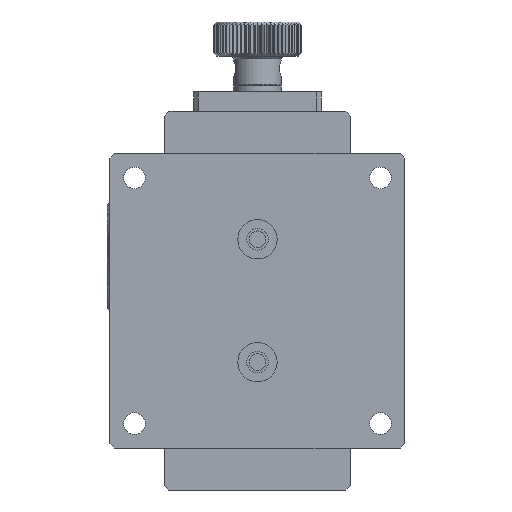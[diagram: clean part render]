
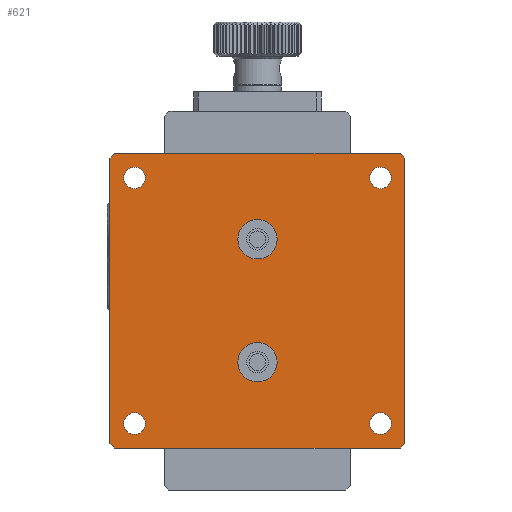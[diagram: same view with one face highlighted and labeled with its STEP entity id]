
A CAD part, front view. The second image highlights one B-rep face of the part: STEP entity #621.
In plain terms, the highlighted planar face has unit normal (0, -1, 0).
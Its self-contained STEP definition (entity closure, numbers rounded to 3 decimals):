
#2=CARTESIAN_POINT('',(-25.,0.,-25.));
#3=DIRECTION('',(0.,1.,0.));
#4=DIRECTION('',(1.,0.,0.));
#5=AXIS2_PLACEMENT_3D('',#2,#3,#4);
#7=CARTESIAN_POINT('',(-25.,0.,-25.));
#8=DIRECTION('',(0.,1.,0.));
#9=DIRECTION('',(-1.,0.,0.));
#10=AXIS2_PLACEMENT_3D('',#7,#8,#9);
#12=CARTESIAN_POINT('',(25.,0.,-25.));
#13=DIRECTION('',(0.,1.,0.));
#14=DIRECTION('',(1.,0.,0.));
#15=AXIS2_PLACEMENT_3D('',#12,#13,#14);
#17=CARTESIAN_POINT('',(25.,0.,-25.));
#18=DIRECTION('',(0.,1.,0.));
#19=DIRECTION('',(-1.,0.,0.));
#20=AXIS2_PLACEMENT_3D('',#17,#18,#19);
#22=CARTESIAN_POINT('',(-25.,0.,25.));
#23=DIRECTION('',(0.,1.,0.));
#24=DIRECTION('',(1.,0.,0.));
#25=AXIS2_PLACEMENT_3D('',#22,#23,#24);
#27=CARTESIAN_POINT('',(-25.,0.,25.));
#28=DIRECTION('',(0.,1.,0.));
#29=DIRECTION('',(-1.,0.,0.));
#30=AXIS2_PLACEMENT_3D('',#27,#28,#29);
#32=CARTESIAN_POINT('',(25.,0.,25.));
#33=DIRECTION('',(0.,1.,0.));
#34=DIRECTION('',(1.,0.,0.));
#35=AXIS2_PLACEMENT_3D('',#32,#33,#34);
#37=CARTESIAN_POINT('',(25.,0.,25.));
#38=DIRECTION('',(0.,1.,0.));
#39=DIRECTION('',(-1.,0.,0.));
#40=AXIS2_PLACEMENT_3D('',#37,#38,#39);
#42=CARTESIAN_POINT('',(12.5,0.,0.));
#43=DIRECTION('',(0.,-1.,0.));
#44=DIRECTION('',(-1.,0.,0.));
#45=AXIS2_PLACEMENT_3D('',#42,#43,#44);
#47=CARTESIAN_POINT('',(12.5,0.,0.));
#48=DIRECTION('',(0.,-1.,0.));
#49=DIRECTION('',(1.,0.,0.));
#50=AXIS2_PLACEMENT_3D('',#47,#48,#49);
#52=CARTESIAN_POINT('',(-12.5,0.,0.));
#53=DIRECTION('',(0.,-1.,0.));
#54=DIRECTION('',(-1.,0.,0.));
#55=AXIS2_PLACEMENT_3D('',#52,#53,#54);
#57=CARTESIAN_POINT('',(-12.5,0.,0.));
#58=DIRECTION('',(0.,-1.,0.));
#59=DIRECTION('',(1.,0.,0.));
#60=AXIS2_PLACEMENT_3D('',#57,#58,#59);
#62=DIRECTION('',(0.707,0.,0.707));
#63=VECTOR('',#62,1.414);
#64=CARTESIAN_POINT('',(29.,0.,-30.));
#65=LINE('',#64,#63);
#66=DIRECTION('',(1.,0.,0.));
#67=VECTOR('',#66,58.);
#68=CARTESIAN_POINT('',(-29.,0.,-30.));
#69=LINE('',#68,#67);
#70=DIRECTION('',(0.707,0.,-0.707));
#71=VECTOR('',#70,1.414);
#72=CARTESIAN_POINT('',(-30.,0.,-29.));
#73=LINE('',#72,#71);
#74=DIRECTION('',(0.,0.,-1.));
#75=VECTOR('',#74,58.);
#76=CARTESIAN_POINT('',(-30.,0.,29.));
#77=LINE('',#76,#75);
#78=DIRECTION('',(-0.707,0.,-0.707));
#79=VECTOR('',#78,1.414);
#80=CARTESIAN_POINT('',(-29.,0.,30.));
#81=LINE('',#80,#79);
#82=DIRECTION('',(-1.,0.,0.));
#83=VECTOR('',#82,58.);
#84=CARTESIAN_POINT('',(29.,0.,30.));
#85=LINE('',#84,#83);
#86=DIRECTION('',(-0.707,0.,0.707));
#87=VECTOR('',#86,1.414);
#88=CARTESIAN_POINT('',(30.,0.,29.));
#89=LINE('',#88,#87);
#90=DIRECTION('',(0.,0.,1.));
#91=VECTOR('',#90,58.);
#92=CARTESIAN_POINT('',(30.,0.,-29.));
#93=LINE('',#92,#91);
#434=CARTESIAN_POINT('',(29.,0.,-30.));
#435=CARTESIAN_POINT('',(30.,0.,-29.));
#436=VERTEX_POINT('',#434);
#437=VERTEX_POINT('',#435);
#442=CARTESIAN_POINT('',(30.,0.,29.));
#443=CARTESIAN_POINT('',(29.,0.,30.));
#444=VERTEX_POINT('',#442);
#445=VERTEX_POINT('',#443);
#450=CARTESIAN_POINT('',(-30.,0.,-29.));
#451=CARTESIAN_POINT('',(-29.,0.,-30.));
#452=VERTEX_POINT('',#450);
#453=VERTEX_POINT('',#451);
#458=CARTESIAN_POINT('',(-29.,0.,30.));
#459=CARTESIAN_POINT('',(-30.,0.,29.));
#460=VERTEX_POINT('',#458);
#461=VERTEX_POINT('',#459);
#466=CARTESIAN_POINT('',(-22.8,0.,-25.));
#467=CARTESIAN_POINT('',(-27.2,0.,-25.));
#468=VERTEX_POINT('',#466);
#469=VERTEX_POINT('',#467);
#470=CARTESIAN_POINT('',(27.2,0.,-25.));
#471=CARTESIAN_POINT('',(22.8,0.,-25.));
#472=VERTEX_POINT('',#470);
#473=VERTEX_POINT('',#471);
#474=CARTESIAN_POINT('',(-22.8,0.,25.));
#475=CARTESIAN_POINT('',(-27.2,0.,25.));
#476=VERTEX_POINT('',#474);
#477=VERTEX_POINT('',#475);
#478=CARTESIAN_POINT('',(27.2,0.,25.));
#479=CARTESIAN_POINT('',(22.8,0.,25.));
#480=VERTEX_POINT('',#478);
#481=VERTEX_POINT('',#479);
#546=CARTESIAN_POINT('',(8.5,0.,0.));
#547=CARTESIAN_POINT('',(16.5,0.,0.));
#548=VERTEX_POINT('',#546);
#549=VERTEX_POINT('',#547);
#550=CARTESIAN_POINT('',(-16.5,0.,0.));
#551=CARTESIAN_POINT('',(-8.5,0.,0.));
#552=VERTEX_POINT('',#550);
#553=VERTEX_POINT('',#551);
#562=CARTESIAN_POINT('',(0.,0.,0.));
#563=DIRECTION('',(0.,1.,0.));
#564=DIRECTION('',(1.,0.,0.));
#565=AXIS2_PLACEMENT_3D('',#562,#563,#564);
#566=PLANE('',#565);
#568=ORIENTED_EDGE('',*,*,#567,.F.);
#570=ORIENTED_EDGE('',*,*,#569,.F.);
#572=ORIENTED_EDGE('',*,*,#571,.F.);
#574=ORIENTED_EDGE('',*,*,#573,.F.);
#576=ORIENTED_EDGE('',*,*,#575,.F.);
#578=ORIENTED_EDGE('',*,*,#577,.F.);
#580=ORIENTED_EDGE('',*,*,#579,.F.);
#582=ORIENTED_EDGE('',*,*,#581,.F.);
#583=EDGE_LOOP('',(#568,#570,#572,#574,#576,#578,#580,#582));
#584=FACE_OUTER_BOUND('',#583,.F.);
#586=ORIENTED_EDGE('',*,*,#585,.F.);
#588=ORIENTED_EDGE('',*,*,#587,.F.);
#589=EDGE_LOOP('',(#586,#588));
#590=FACE_BOUND('',#589,.F.);
#592=ORIENTED_EDGE('',*,*,#591,.F.);
#594=ORIENTED_EDGE('',*,*,#593,.F.);
#595=EDGE_LOOP('',(#592,#594));
#596=FACE_BOUND('',#595,.F.);
#598=ORIENTED_EDGE('',*,*,#597,.F.);
#600=ORIENTED_EDGE('',*,*,#599,.F.);
#601=EDGE_LOOP('',(#598,#600));
#602=FACE_BOUND('',#601,.F.);
#604=ORIENTED_EDGE('',*,*,#603,.T.);
#606=ORIENTED_EDGE('',*,*,#605,.T.);
#607=EDGE_LOOP('',(#604,#606));
#608=FACE_BOUND('',#607,.F.);
#610=ORIENTED_EDGE('',*,*,#609,.T.);
#612=ORIENTED_EDGE('',*,*,#611,.T.);
#613=EDGE_LOOP('',(#610,#612));
#614=FACE_BOUND('',#613,.F.);
#616=ORIENTED_EDGE('',*,*,#615,.F.);
#618=ORIENTED_EDGE('',*,*,#617,.F.);
#619=EDGE_LOOP('',(#616,#618));
#620=FACE_BOUND('',#619,.F.);
#621=ADVANCED_FACE('',(#584,#590,#596,#602,#608,#614,#620),#566,.F.);
#6=CIRCLE('',#5,2.2);
#11=CIRCLE('',#10,2.2);
#16=CIRCLE('',#15,2.2);
#21=CIRCLE('',#20,2.2);
#26=CIRCLE('',#25,2.2);
#31=CIRCLE('',#30,2.2);
#36=CIRCLE('',#35,2.2);
#41=CIRCLE('',#40,2.2);
#46=CIRCLE('',#45,4.);
#51=CIRCLE('',#50,4.);
#56=CIRCLE('',#55,4.);
#61=CIRCLE('',#60,4.);
#567=EDGE_CURVE('',#436,#437,#65,.T.);
#569=EDGE_CURVE('',#453,#436,#69,.T.);
#571=EDGE_CURVE('',#452,#453,#73,.T.);
#573=EDGE_CURVE('',#461,#452,#77,.T.);
#575=EDGE_CURVE('',#460,#461,#81,.T.);
#577=EDGE_CURVE('',#445,#460,#85,.T.);
#579=EDGE_CURVE('',#444,#445,#89,.T.);
#581=EDGE_CURVE('',#437,#444,#93,.T.);
#585=EDGE_CURVE('',#472,#473,#16,.T.);
#587=EDGE_CURVE('',#473,#472,#21,.T.);
#591=EDGE_CURVE('',#476,#477,#26,.T.);
#593=EDGE_CURVE('',#477,#476,#31,.T.);
#597=EDGE_CURVE('',#480,#481,#36,.T.);
#599=EDGE_CURVE('',#481,#480,#41,.T.);
#603=EDGE_CURVE('',#548,#549,#46,.T.);
#605=EDGE_CURVE('',#549,#548,#51,.T.);
#609=EDGE_CURVE('',#552,#553,#56,.T.);
#611=EDGE_CURVE('',#553,#552,#61,.T.);
#615=EDGE_CURVE('',#468,#469,#6,.T.);
#617=EDGE_CURVE('',#469,#468,#11,.T.);
